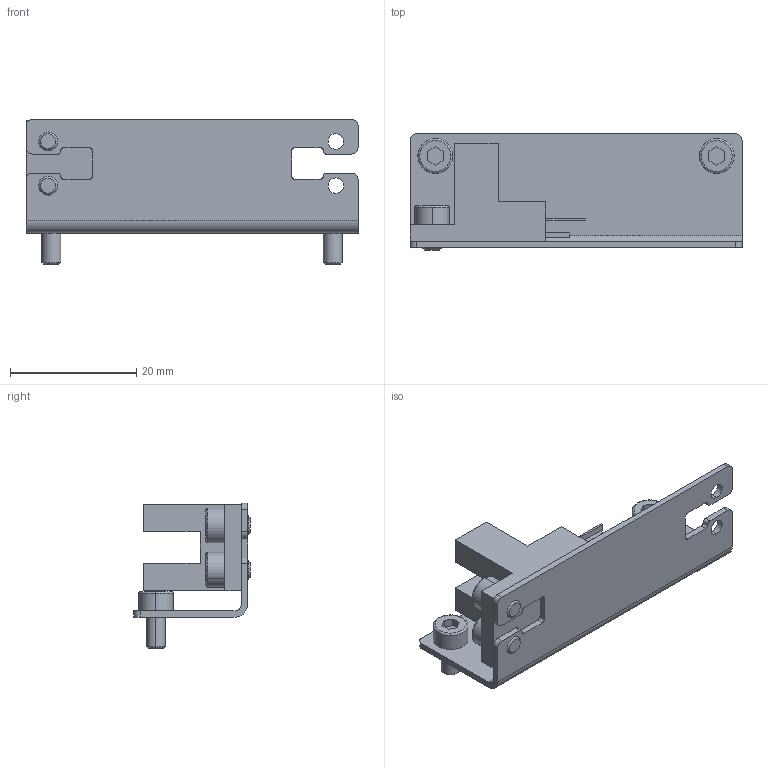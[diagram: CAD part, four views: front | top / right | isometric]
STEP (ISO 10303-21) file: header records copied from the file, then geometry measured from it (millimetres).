
FILE_DESCRIPTION (( 'STEP AP203' ), '1' );
FILE_NAME ('sensor.STEP', '2025-07-26T01:01:46', ( '' ), ( '' ), 'SwSTEP 2.0', 'SolidWorks 2024', '' );
FILE_SCHEMA (( 'CONFIG_CONTROL_DESIGN' ));
Length unit declared in the file: millimetre
Products named in the file (2): センサ1; sensor
Assembly tree (1 placements, depth 2):
  sensor
    センサ1
Bounding box: 52.5 x 18.4 x 23 mm (x, y, z)
Volume: 4110.7 mm3; surface area: 5788.1 mm2
Topology: 4 solids, 4 shells, 179 faces, 456 edges, 298 vertices
Faces by surface type: plane 105, cylinder 50, cone 12, torus 12
Entity records: 5584 total; most frequent: CARTESIAN_POINT 965, DIRECTION 942, ORIENTED_EDGE 904, EDGE_CURVE 452, AXIS2_PLACEMENT_3D 323, VERTEX_POINT 298, VECTOR 296, LINE 296
